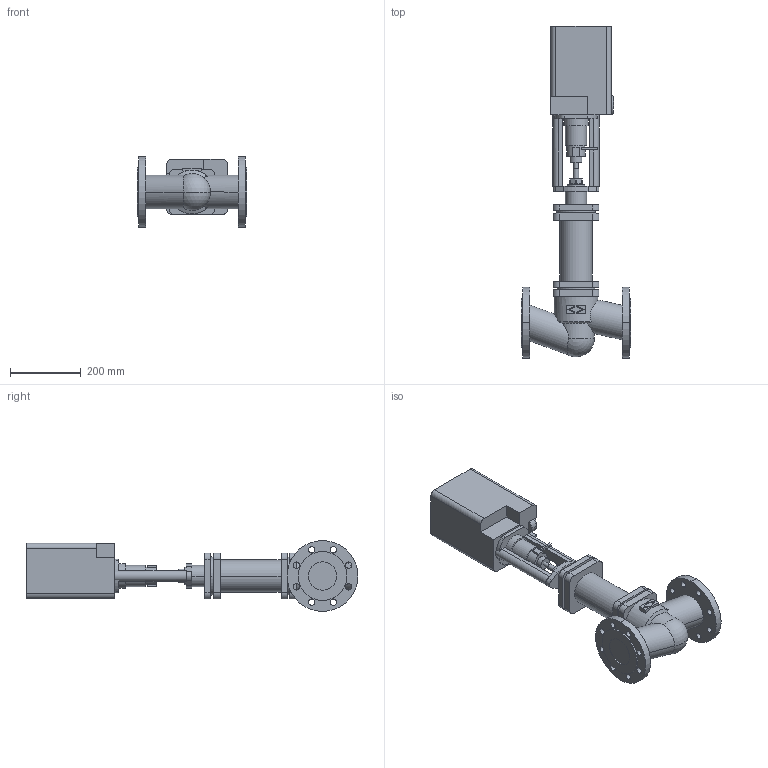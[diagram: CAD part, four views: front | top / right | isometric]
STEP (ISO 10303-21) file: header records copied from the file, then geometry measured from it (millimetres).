
FILE_DESCRIPTION(('CoCreate Modeling STEP Export'),'2;1');
FILE_NAME('c000004806.stp','2011-10-11T11:22:58',(''),(''),'CoCreate Modeling STEP processor for AP214 (Solid Model)','CoCreate Modeling 17.0 01-Apr-2010 (C) Parametric Technology GmbH','');
FILE_SCHEMA(('AUTOMOTIVE_DESIGN { 1 0 10303 214 1 1 1 1 }'));
Length unit declared in the file: millimetre
Products named in the file (2): 1; 2
Bounding box: 310 x 937.7 x 200 mm (x, y, z)
Volume: 13902199 mm3; surface area: 724947.9 mm2
Topology: 2 solids, 2 shells, 242 faces, 616 edges, 406 vertices
Faces by surface type: cylinder 121, plane 109, sphere 6, torus 4, cone 2
Entity records: 9035 total; most frequent: CARTESIAN_POINT 1426, ORIENTED_EDGE 1228, DIRECTION 1092, EDGE_CURVE 614, VERTEX_POINT 406, AXIS2_PLACEMENT_3D 381, VECTOR 330, LINE 330
